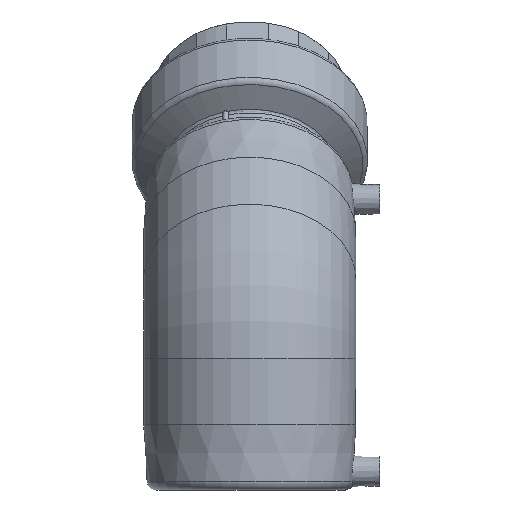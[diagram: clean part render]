
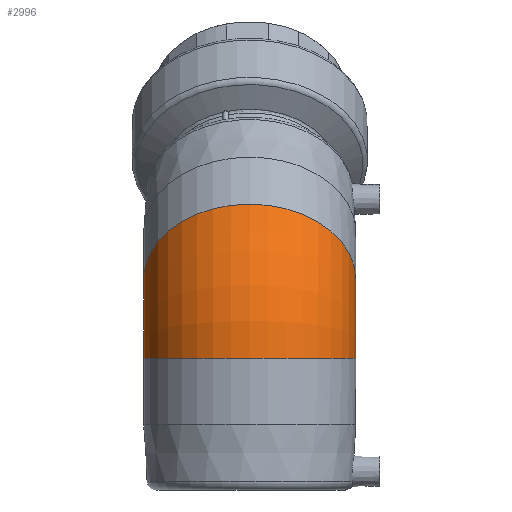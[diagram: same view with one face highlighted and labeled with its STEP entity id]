
A CAD part, left-side view. The second image highlights one B-rep face of the part: STEP entity #2996.
In plain terms, the highlighted toroidal (fillet/blend) face has major radius 72.426 mm and minor radius 68.5 mm.
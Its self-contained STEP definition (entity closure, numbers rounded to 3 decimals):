
#386=TOROIDAL_SURFACE('',#3796,72.426,68.5);
#586=ORIENTED_EDGE('',*,*,#1420,.F.);
#587=ORIENTED_EDGE('',*,*,#1419,.T.);
#1419=EDGE_CURVE('',#1845,#1845,#2132,.F.);
#1420=EDGE_CURVE('',#1846,#1846,#2133,.F.);
#1845=VERTEX_POINT('',#5274);
#1846=VERTEX_POINT('',#5277);
#2132=CIRCLE('',#3795,68.5);
#2133=CIRCLE('',#3797,68.5);
#2356=EDGE_LOOP('',(#586));
#2357=EDGE_LOOP('',(#587));
#2635=FACE_BOUND('',#2356,.T.);
#2636=FACE_BOUND('',#2357,.T.);
#2996=ADVANCED_FACE('',(#2635,#2636),#386,.T.);
#3795=AXIS2_PLACEMENT_3D('',#5273,#4236,#4237);
#3796=AXIS2_PLACEMENT_3D('',#5275,#4238,#4239);
#3797=AXIS2_PLACEMENT_3D('',#5276,#4240,#4241);
#4236=DIRECTION('',(0.,0.,-1.));
#4237=DIRECTION('',(1.,0.,0.));
#4238=DIRECTION('',(0.,1.,0.));
#4239=DIRECTION('',(0.,0.,1.));
#4240=DIRECTION('',(-0.707,0.,-0.707));
#4241=DIRECTION('',(0.707,0.,-0.707));
#5273=CARTESIAN_POINT('',(0.,0.,-30.));
#5274=CARTESIAN_POINT('',(68.5,0.,-30.));
#5275=CARTESIAN_POINT('',(72.426,0.,-30.));
#5276=CARTESIAN_POINT('',(21.213,0.,21.213));
#5277=CARTESIAN_POINT('',(69.65,0.,-27.224));
